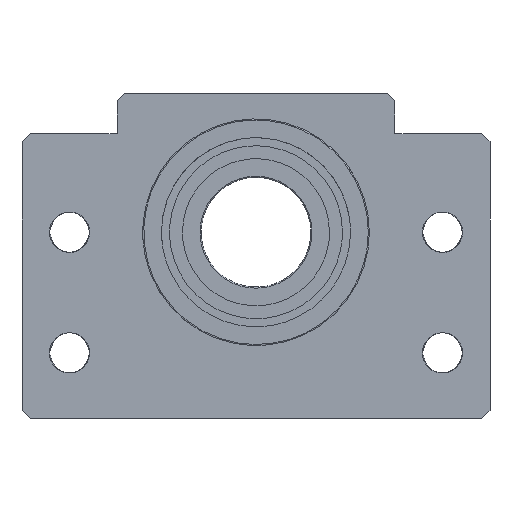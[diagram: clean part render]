
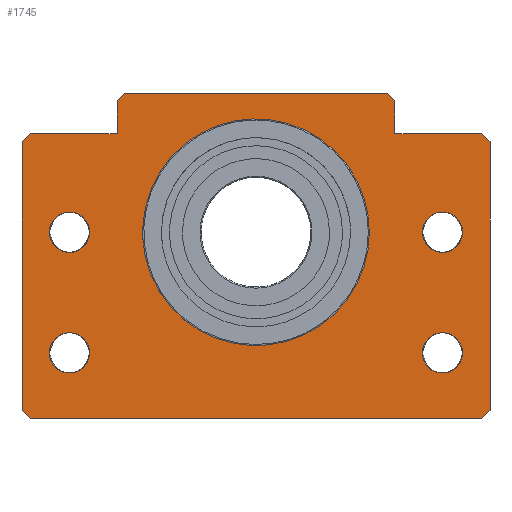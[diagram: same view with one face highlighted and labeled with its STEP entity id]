
A CAD part, front view. The second image highlights one B-rep face of the part: STEP entity #1745.
In plain terms, the highlighted free-form (B-spline) face has degree [1, 1] with [2, 2] control points.
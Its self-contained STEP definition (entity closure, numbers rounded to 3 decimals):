
#1022=CARTESIAN_POINT('',(64.,-48.72,0.));
#1023=VERTEX_POINT('',#1022);
#1024=CARTESIAN_POINT('',(61.72,-51.,0.));
#1025=VERTEX_POINT('',#1024);
#1026=CARTESIAN_POINT('',(64.,-48.72,0.));
#1027=CARTESIAN_POINT('',(61.72,-51.,0.));
#1028=B_SPLINE_CURVE_WITH_KNOTS('',1,(#1026,#1027),.POLYLINE_FORM.,.F.,.U.,(2,2),(0.,1.),.UNSPECIFIED.);
#1029=EDGE_CURVE('',#1023,#1025,#1028,.T.);
#1058=CARTESIAN_POINT('',(64.,24.72,0.));
#1059=VERTEX_POINT('',#1058);
#1060=CARTESIAN_POINT('',(64.,24.72,0.));
#1061=CARTESIAN_POINT('',(64.,-48.72,0.));
#1062=B_SPLINE_CURVE_WITH_KNOTS('',1,(#1060,#1061),.POLYLINE_FORM.,.F.,.U.,(2,2),(0.,1.),.UNSPECIFIED.);
#1063=EDGE_CURVE('',#1059,#1023,#1062,.T.);
#1086=CARTESIAN_POINT('',(-61.72,-51.,0.));
#1087=VERTEX_POINT('',#1086);
#1088=CARTESIAN_POINT('',(61.72,-51.,0.));
#1089=CARTESIAN_POINT('',(-61.72,-51.,0.));
#1090=B_SPLINE_CURVE_WITH_KNOTS('',1,(#1088,#1089),.POLYLINE_FORM.,.F.,.U.,(2,2),(0.,1.),.UNSPECIFIED.);
#1091=EDGE_CURVE('',#1025,#1087,#1090,.T.);
#1146=CARTESIAN_POINT('',(-64.,-48.72,0.));
#1147=VERTEX_POINT('',#1146);
#1148=CARTESIAN_POINT('',(-64.,24.72,0.));
#1149=VERTEX_POINT('',#1148);
#1150=CARTESIAN_POINT('',(-64.,-48.72,0.));
#1151=CARTESIAN_POINT('',(-64.,24.72,0.));
#1152=B_SPLINE_CURVE_WITH_KNOTS('',1,(#1150,#1151),.POLYLINE_FORM.,.F.,.U.,(2,2),(0.,1.),.UNSPECIFIED.);
#1153=EDGE_CURVE('',#1147,#1149,#1152,.T.);
#1182=CARTESIAN_POINT('',(-61.72,-51.,0.));
#1183=CARTESIAN_POINT('',(-64.,-48.72,0.));
#1184=B_SPLINE_CURVE_WITH_KNOTS('',1,(#1182,#1183),.POLYLINE_FORM.,.F.,.U.,(2,2),(0.,1.),.UNSPECIFIED.);
#1185=EDGE_CURVE('',#1087,#1147,#1184,.T.);
#1202=CARTESIAN_POINT('',(61.72,27.,0.));
#1203=VERTEX_POINT('',#1202);
#1204=CARTESIAN_POINT('',(61.72,27.,0.));
#1205=CARTESIAN_POINT('',(64.,24.72,0.));
#1206=B_SPLINE_CURVE_WITH_KNOTS('',1,(#1204,#1205),.POLYLINE_FORM.,.F.,.U.,(2,2),(0.,1.),.UNSPECIFIED.);
#1207=EDGE_CURVE('',#1203,#1059,#1206,.T.);
#1230=CARTESIAN_POINT('',(38.,27.,0.));
#1231=VERTEX_POINT('',#1230);
#1232=CARTESIAN_POINT('',(38.,27.,0.));
#1233=CARTESIAN_POINT('',(61.72,27.,0.));
#1234=B_SPLINE_CURVE_WITH_KNOTS('',1,(#1232,#1233),.POLYLINE_FORM.,.F.,.U.,(2,2),(0.,1.),.UNSPECIFIED.);
#1235=EDGE_CURVE('',#1231,#1203,#1234,.T.);
#1274=CARTESIAN_POINT('',(38.,36.,0.));
#1275=VERTEX_POINT('',#1274);
#1276=CARTESIAN_POINT('',(38.,36.,0.));
#1277=CARTESIAN_POINT('',(38.,27.,0.));
#1278=B_SPLINE_CURVE_WITH_KNOTS('',1,(#1276,#1277),.POLYLINE_FORM.,.F.,.U.,(2,2),(0.,1.),.UNSPECIFIED.);
#1279=EDGE_CURVE('',#1275,#1231,#1278,.T.);
#1302=CARTESIAN_POINT('',(36.,38.,0.));
#1303=VERTEX_POINT('',#1302);
#1304=CARTESIAN_POINT('',(36.,38.,0.));
#1305=CARTESIAN_POINT('',(38.,36.,0.));
#1306=B_SPLINE_CURVE_WITH_KNOTS('',1,(#1304,#1305),.POLYLINE_FORM.,.F.,.U.,(2,2),(0.,1.),.UNSPECIFIED.);
#1307=EDGE_CURVE('',#1303,#1275,#1306,.T.);
#1330=CARTESIAN_POINT('',(-36.,38.,0.));
#1331=VERTEX_POINT('',#1330);
#1332=CARTESIAN_POINT('',(-36.,38.,0.));
#1333=CARTESIAN_POINT('',(36.,38.,0.));
#1334=B_SPLINE_CURVE_WITH_KNOTS('',1,(#1332,#1333),.POLYLINE_FORM.,.F.,.U.,(2,2),(0.,1.),.UNSPECIFIED.);
#1335=EDGE_CURVE('',#1331,#1303,#1334,.T.);
#1358=CARTESIAN_POINT('',(-38.,36.,0.));
#1359=VERTEX_POINT('',#1358);
#1360=CARTESIAN_POINT('',(-38.,36.,0.));
#1361=CARTESIAN_POINT('',(-36.,38.,0.));
#1362=B_SPLINE_CURVE_WITH_KNOTS('',1,(#1360,#1361),.POLYLINE_FORM.,.F.,.U.,(2,2),(0.,1.),.UNSPECIFIED.);
#1363=EDGE_CURVE('',#1359,#1331,#1362,.T.);
#1386=CARTESIAN_POINT('',(-38.,27.,0.));
#1387=VERTEX_POINT('',#1386);
#1388=CARTESIAN_POINT('',(-38.,27.,0.));
#1389=CARTESIAN_POINT('',(-38.,36.,0.));
#1390=B_SPLINE_CURVE_WITH_KNOTS('',1,(#1388,#1389),.POLYLINE_FORM.,.F.,.U.,(2,2),(0.,1.),.UNSPECIFIED.);
#1391=EDGE_CURVE('',#1387,#1359,#1390,.T.);
#1414=CARTESIAN_POINT('',(-61.72,27.,0.));
#1415=VERTEX_POINT('',#1414);
#1416=CARTESIAN_POINT('',(-61.72,27.,0.));
#1417=CARTESIAN_POINT('',(-38.,27.,0.));
#1418=B_SPLINE_CURVE_WITH_KNOTS('',1,(#1416,#1417),.POLYLINE_FORM.,.F.,.U.,(2,2),(0.,1.),.UNSPECIFIED.);
#1419=EDGE_CURVE('',#1415,#1387,#1418,.T.);
#1458=CARTESIAN_POINT('',(-64.,24.72,0.));
#1459=CARTESIAN_POINT('',(-61.72,27.,0.));
#1460=B_SPLINE_CURVE_WITH_KNOTS('',1,(#1458,#1459),.POLYLINE_FORM.,.F.,.U.,(2,2),(0.,1.),.UNSPECIFIED.);
#1461=EDGE_CURVE('',#1149,#1415,#1460,.T.);
#1642=CARTESIAN_POINT('',(31.,0.,0.));
#1643=VERTEX_POINT('',#1642);
#1649=CARTESIAN_POINT('',(31.,0.,0.));
#1650=CARTESIAN_POINT('',(31.,-31.,0.));
#1651=CARTESIAN_POINT('',(0.,-31.,0.));
#1652=CARTESIAN_POINT('',(-31.,-31.,0.));
#1653=CARTESIAN_POINT('',(-31.,0.,0.));
#1654=CARTESIAN_POINT('',(-31.,31.,0.));
#1655=CARTESIAN_POINT('',(0.,31.,0.));
#1656=CARTESIAN_POINT('',(31.,31.,0.));
#1657=CARTESIAN_POINT('',(31.,0.,0.));
#1658=(BOUNDED_CURVE()B_SPLINE_CURVE(2,(#1649,#1650,#1651,#1652,#1653,#1654,#1655,#1656,#1657),.UNSPECIFIED.,.T.,.U.)B_SPLINE_CURVE_WITH_KNOTS((3,2,2,2,3),(0.,0.25,0.5,0.75,1.),.UNSPECIFIED.)CURVE()GEOMETRIC_REPRESENTATION_ITEM()RATIONAL_B_SPLINE_CURVE((1.,0.707,1.,0.707,1.,0.707,1.,0.707,1.))REPRESENTATION_ITEM(''));
#1659=EDGE_CURVE('',#1643,#1643,#1658,.T.);
#1665=CARTESIAN_POINT('',(-162.401,-162.401,0.));
#1666=CARTESIAN_POINT('',(-162.401,162.401,0.));
#1667=CARTESIAN_POINT('',(162.401,-162.401,0.));
#1668=CARTESIAN_POINT('',(162.401,162.401,0.));
#1669=B_SPLINE_SURFACE_WITH_KNOTS('',1,1,((#1665,#1666),(#1667,#1668)),.PLANE_SURF.,.F.,.F.,.U.,(2,2),(2,2),(0.,1.),(0.,1.),.UNSPECIFIED.);
#1670=ORIENTED_EDGE('',*,*,#1153,.F.);
#1671=ORIENTED_EDGE('',*,*,#1185,.F.);
#1672=ORIENTED_EDGE('',*,*,#1091,.F.);
#1673=ORIENTED_EDGE('',*,*,#1029,.F.);
#1674=ORIENTED_EDGE('',*,*,#1063,.F.);
#1675=ORIENTED_EDGE('',*,*,#1207,.F.);
#1676=ORIENTED_EDGE('',*,*,#1235,.F.);
#1677=ORIENTED_EDGE('',*,*,#1279,.F.);
#1678=ORIENTED_EDGE('',*,*,#1307,.F.);
#1679=ORIENTED_EDGE('',*,*,#1335,.F.);
#1680=ORIENTED_EDGE('',*,*,#1363,.F.);
#1681=ORIENTED_EDGE('',*,*,#1391,.F.);
#1682=ORIENTED_EDGE('',*,*,#1419,.F.);
#1683=ORIENTED_EDGE('',*,*,#1461,.F.);
#1684=EDGE_LOOP('',(#1670,#1671,#1672,#1673,#1674,#1675,#1676,#1677,#1678,#1679,#1680,#1681,#1682,#1683));
#1685=FACE_OUTER_BOUND('',#1684,.T.);
#1686=ORIENTED_EDGE('',*,*,#1659,.T.);
#1687=EDGE_LOOP('',(#1686));
#1688=FACE_BOUND('',#1687,.T.);
#1689=CARTESIAN_POINT('',(56.5,0.,0.));
#1690=VERTEX_POINT('',#1689);
#1691=CARTESIAN_POINT('',(56.5,0.,0.));
#1692=CARTESIAN_POINT('',(56.5,9.526,0.));
#1693=CARTESIAN_POINT('',(48.25,4.763,0.));
#1694=CARTESIAN_POINT('',(40.,0.,0.));
#1695=CARTESIAN_POINT('',(48.25,-4.763,0.));
#1696=CARTESIAN_POINT('',(56.5,-9.526,0.));
#1697=CARTESIAN_POINT('',(56.5,0.,0.));
#1698=(BOUNDED_CURVE()B_SPLINE_CURVE(2,(#1691,#1692,#1693,#1694,#1695,#1696,#1697),.CIRCULAR_ARC.,.T.,.U.)B_SPLINE_CURVE_WITH_KNOTS((3,2,2,3),(0.,0.333,0.667,1.),.UNSPECIFIED.)CURVE()GEOMETRIC_REPRESENTATION_ITEM()RATIONAL_B_SPLINE_CURVE((1.,0.5,1.,0.5,1.,0.5,1.))REPRESENTATION_ITEM(''));
#1699=EDGE_CURVE('',#1690,#1690,#1698,.T.);
#1700=ORIENTED_EDGE('',*,*,#1699,.F.);
#1701=EDGE_LOOP('',(#1700));
#1702=FACE_BOUND('',#1701,.T.);
#1703=CARTESIAN_POINT('',(56.5,-33.,0.));
#1704=VERTEX_POINT('',#1703);
#1705=CARTESIAN_POINT('',(56.5,-33.,0.));
#1706=CARTESIAN_POINT('',(56.5,-23.474,0.));
#1707=CARTESIAN_POINT('',(48.25,-28.237,0.));
#1708=CARTESIAN_POINT('',(40.,-33.,0.));
#1709=CARTESIAN_POINT('',(48.25,-37.763,0.));
#1710=CARTESIAN_POINT('',(56.5,-42.526,0.));
#1711=CARTESIAN_POINT('',(56.5,-33.,0.));
#1712=(BOUNDED_CURVE()B_SPLINE_CURVE(2,(#1705,#1706,#1707,#1708,#1709,#1710,#1711),.CIRCULAR_ARC.,.T.,.U.)B_SPLINE_CURVE_WITH_KNOTS((3,2,2,3),(0.,0.333,0.667,1.),.UNSPECIFIED.)CURVE()GEOMETRIC_REPRESENTATION_ITEM()RATIONAL_B_SPLINE_CURVE((1.,0.5,1.,0.5,1.,0.5,1.))REPRESENTATION_ITEM(''));
#1713=EDGE_CURVE('',#1704,#1704,#1712,.T.);
#1714=ORIENTED_EDGE('',*,*,#1713,.F.);
#1715=EDGE_LOOP('',(#1714));
#1716=FACE_BOUND('',#1715,.T.);
#1717=CARTESIAN_POINT('',(-45.5,0.,0.));
#1718=VERTEX_POINT('',#1717);
#1719=CARTESIAN_POINT('',(-45.5,0.,0.));
#1720=CARTESIAN_POINT('',(-45.5,9.526,0.));
#1721=CARTESIAN_POINT('',(-53.75,4.763,0.));
#1722=CARTESIAN_POINT('',(-62.,0.,0.));
#1723=CARTESIAN_POINT('',(-53.75,-4.763,0.));
#1724=CARTESIAN_POINT('',(-45.5,-9.526,0.));
#1725=CARTESIAN_POINT('',(-45.5,0.,0.));
#1726=(BOUNDED_CURVE()B_SPLINE_CURVE(2,(#1719,#1720,#1721,#1722,#1723,#1724,#1725),.CIRCULAR_ARC.,.T.,.U.)B_SPLINE_CURVE_WITH_KNOTS((3,2,2,3),(0.,0.333,0.667,1.),.UNSPECIFIED.)CURVE()GEOMETRIC_REPRESENTATION_ITEM()RATIONAL_B_SPLINE_CURVE((1.,0.5,1.,0.5,1.,0.5,1.))REPRESENTATION_ITEM(''));
#1727=EDGE_CURVE('',#1718,#1718,#1726,.T.);
#1728=ORIENTED_EDGE('',*,*,#1727,.F.);
#1729=EDGE_LOOP('',(#1728));
#1730=FACE_BOUND('',#1729,.T.);
#1731=CARTESIAN_POINT('',(-45.5,-33.,0.));
#1732=VERTEX_POINT('',#1731);
#1733=CARTESIAN_POINT('',(-45.5,-33.,0.));
#1734=CARTESIAN_POINT('',(-45.5,-23.474,0.));
#1735=CARTESIAN_POINT('',(-53.75,-28.237,0.));
#1736=CARTESIAN_POINT('',(-62.,-33.,0.));
#1737=CARTESIAN_POINT('',(-53.75,-37.763,0.));
#1738=CARTESIAN_POINT('',(-45.5,-42.526,0.));
#1739=CARTESIAN_POINT('',(-45.5,-33.,0.));
#1740=(BOUNDED_CURVE()B_SPLINE_CURVE(2,(#1733,#1734,#1735,#1736,#1737,#1738,#1739),.CIRCULAR_ARC.,.T.,.U.)B_SPLINE_CURVE_WITH_KNOTS((3,2,2,3),(0.,0.333,0.667,1.),.UNSPECIFIED.)CURVE()GEOMETRIC_REPRESENTATION_ITEM()RATIONAL_B_SPLINE_CURVE((1.,0.5,1.,0.5,1.,0.5,1.))REPRESENTATION_ITEM(''));
#1741=EDGE_CURVE('',#1732,#1732,#1740,.T.);
#1742=ORIENTED_EDGE('',*,*,#1741,.F.);
#1743=EDGE_LOOP('',(#1742));
#1744=FACE_BOUND('',#1743,.T.);
#1745=ADVANCED_FACE('',(#1685,#1688,#1702,#1716,#1730,#1744),#1669,.T.);
